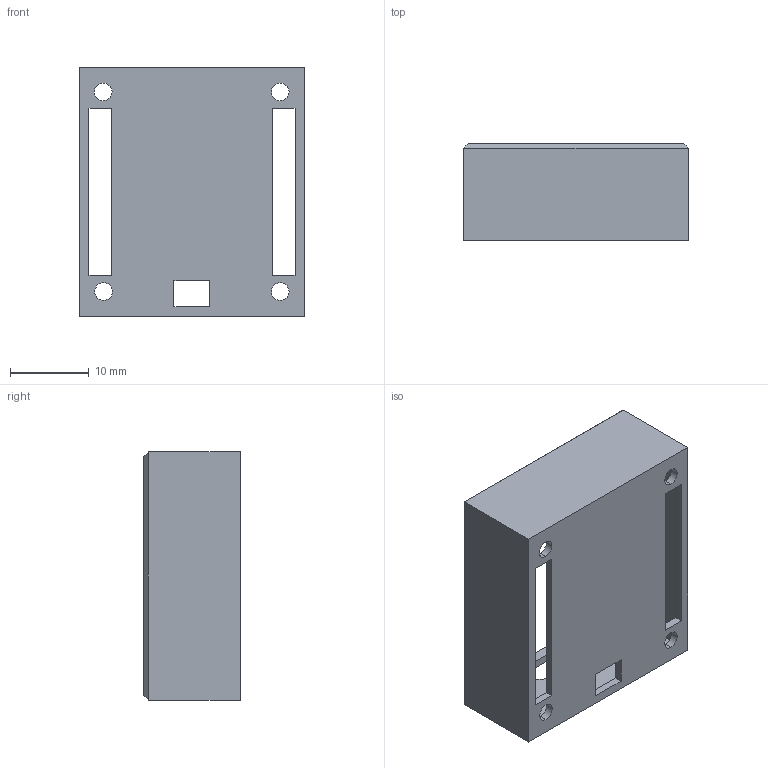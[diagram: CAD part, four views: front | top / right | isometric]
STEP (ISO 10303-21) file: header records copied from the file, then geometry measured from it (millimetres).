
FILE_DESCRIPTION (( 'STEP AP203' ), '1' );
FILE_NAME ('苤褲极.STEP', '2024-11-24T05:26:32', ( '' ), ( '' ), 'SwSTEP 2.0', 'SolidWorks 2017', '' );
FILE_SCHEMA (( 'CONFIG_CONTROL_DESIGN' ));
Length unit declared in the file: millimetre
Products named in the file (1): 苤褲极
Bounding box: 28.64 x 12.3 x 31.62 mm (x, y, z)
Volume: 2012 mm3; surface area: 4309.9 mm2
Topology: 1 solids, 1 shells, 43 faces, 116 edges, 76 vertices
Faces by surface type: plane 31, cylinder 12
Entity records: 1451 total; most frequent: CARTESIAN_POINT 236, ORIENTED_EDGE 232, DIRECTION 228, EDGE_CURVE 116, LINE 92, VECTOR 92, VERTEX_POINT 76, AXIS2_PLACEMENT_3D 68
